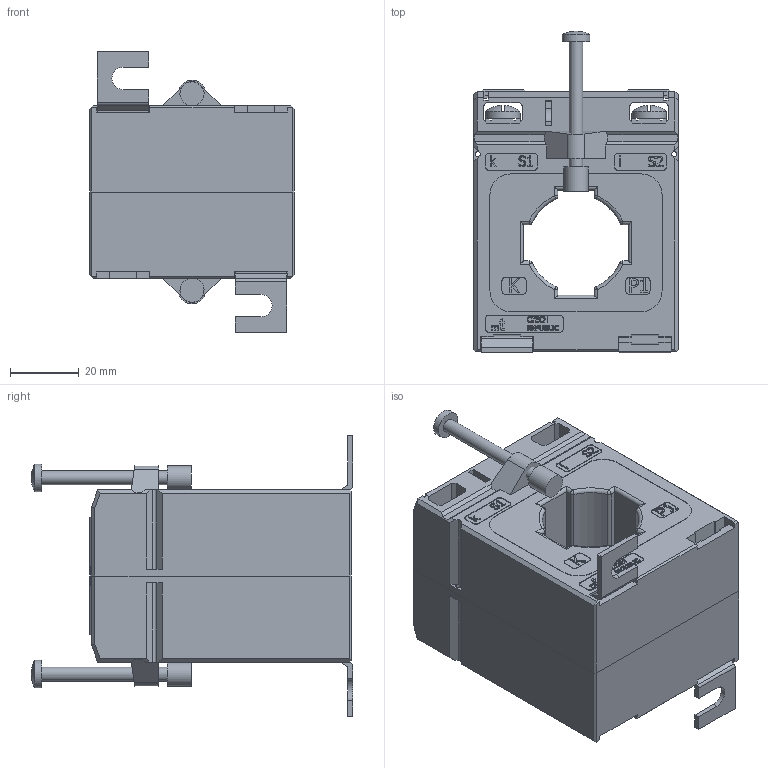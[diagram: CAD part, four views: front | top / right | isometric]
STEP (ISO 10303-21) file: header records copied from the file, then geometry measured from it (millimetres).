
FILE_DESCRIPTION(/* description */ (''),/* implementation_level */ '2;1');
FILE_NAME(/* name */ 'CLB 3.65.step',/* time_stamp */ '2024-10-11T21:04:18+02:00',/* author */ ('peter'),/* organization */ (''),/* preprocessor_version */ 'ST-DEVELOPER v20',/* originating_system */ 'Autodesk Inventor 2025',/* authorisation */ '');
FILE_SCHEMA (('AUTOMOTIVE_DESIGN { 1 0 10303 214 3 1 1 }'));
Length unit declared in the file: millimetre
Products named in the file (10): Current transformer CLB 3.65; Front plastic case CLB 3.65; Back plastic case CLB 3.65; Tape label CLB 3.65; Secondary terminal 28 CLB; Secondary terminal cover 37 CLB; Metal mounting foot CLB; Screw M5x8; Screw 4x60; Insulating cap
Assembly tree (17 placements, depth 2):
  Current transformer CLB 3.65
    Front plastic case CLB 3.65
    Back plastic case CLB 3.65
    Tape label CLB 3.65
    Secondary terminal 28 CLB  x2
    Secondary terminal cover 37 CLB  x2
    Metal mounting foot CLB  x2
    Screw M5x8  x4
    Screw 4x60  x2
    Insulating cap  x2
Bounding box: 59.5 x 93.34 x 81.5 mm (x, y, z)
Volume: 180607.6 mm3; surface area: 50810.2 mm2
Topology: 17 solids, 17 shells, 1712 faces, 4684 edges, 3080 vertices
Faces by surface type: plane 1077, bspline 397, cylinder 191, sphere 25, cone 14, torus 8
Full cylindrical faces by diameter (mm): 1.5 x4, 2.5 x2, 2.95 x2, 3 x4, 3.5 x2, 4 x4, 4.134 x4, 5 x4, 7 x2, 8 x2, 10 x4
Entity records: 50871 total; most frequent: CARTESIAN_POINT 13754, ORIENTED_EDGE 8410, DIRECTION 6060, EDGE_CURVE 4205, LINE 3046, VECTOR 3046, VERTEX_POINT 2769, EDGE_LOOP 1644
